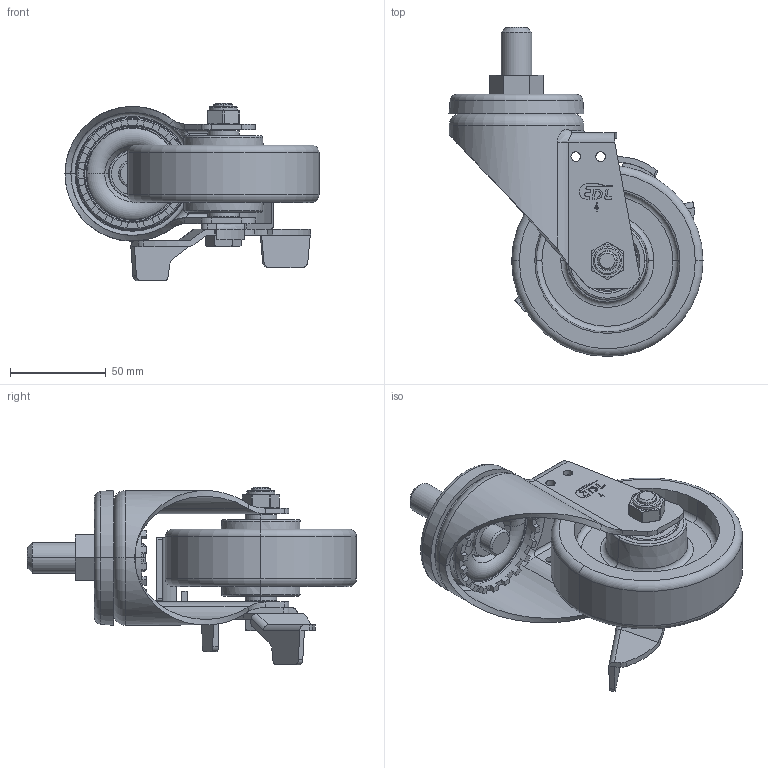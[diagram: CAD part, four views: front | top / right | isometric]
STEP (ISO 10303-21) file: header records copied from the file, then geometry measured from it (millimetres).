
FILE_DESCRIPTION((''),'2;1');
FILE_NAME('66144CM16X25_ASM','2024-04-28T',('Lenovo'),(''),'PRO/ENGINEER BY PARAMETRIC TECHNOLOGY CORPORATION, 2010280','PRO/ENGINEER BY PARAMETRIC TECHNOLOGY CORPORATION, 2010280','');
FILE_SCHEMA(('CONFIG_CONTROL_DESIGN'));
Length unit declared in the file: millimetre
Products named in the file (16): 6610-251; 6610-053M16X25; 6610-211; 6614-311; 6610-241; 6610-041; 674-986AA; 6201; 500-66; 630-54A; 674-86A_ASM; 6414-503; 6410-502; 6410-020C; 630-34; 66144CM16X25_ASM
Assembly tree (17 placements, depth 3):
  66144CM16X25_ASM
    6610-251
    6610-053M16X25
    6610-211
    6614-311
    6610-241
    6610-041
    674-86A_ASM
      674-986AA
      6201  x2
      500-66  x2
      630-54A
    6414-503
    6410-502
    6410-020C
    630-34
Bounding box: 132.79 x 172 x 93 mm (x, y, z)
Volume: 275797.3 mm3; surface area: 128660.2 mm2
Topology: 44 solids, 44 shells, 680 faces, 1667 edges, 993 vertices
Faces by surface type: plane 284, cylinder 159, torus 117, cone 60, sphere 52, bspline 8
Entity records: 19807 total; most frequent: CARTESIAN_POINT 4719, DIRECTION 3334, ORIENTED_EDGE 2934, EDGE_CURVE 1467, AXIS2_PLACEMENT_3D 1309, VERTEX_POINT 927, VECTOR 716, LINE 716
